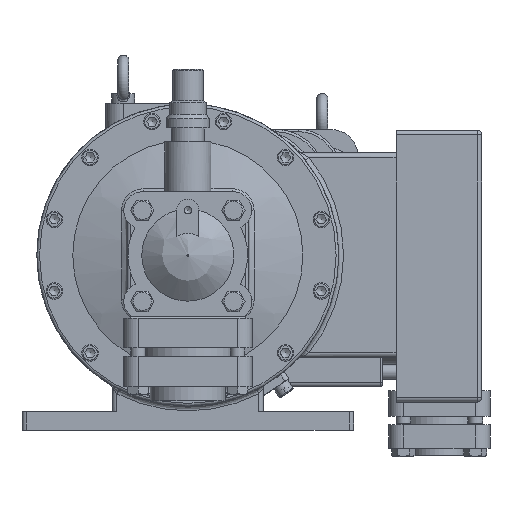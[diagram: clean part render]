
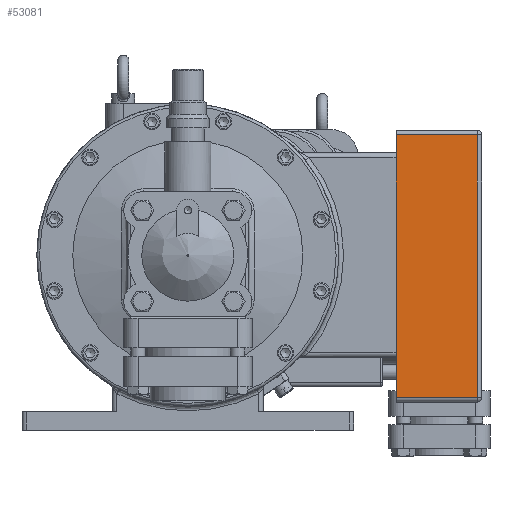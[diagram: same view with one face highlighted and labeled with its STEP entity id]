
A CAD part, left-side view. The second image highlights one B-rep face of the part: STEP entity #53081.
In plain terms, the highlighted planar face has unit normal (-1, 0, 0).
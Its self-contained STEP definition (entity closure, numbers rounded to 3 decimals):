
#52710=CARTESIAN_POINT('',(-179.25,-142.5,41.5));
#52711=VERTEX_POINT('',#52710);
#52727=CARTESIAN_POINT('',(-179.25,142.5,41.5));
#52728=VERTEX_POINT('',#52727);
#52736=CARTESIAN_POINT('',(-179.25,142.5,41.5));
#52737=DIRECTION('',(0.0,-1.0,0.0));
#52738=VECTOR('',#52737,285.0);
#52739=LINE('',#52736,#52738);
#52740=EDGE_CURVE('',#52728,#52711,#52739,.T.);
#52905=CARTESIAN_POINT('',(-179.25,142.5,-46.5));
#52906=VERTEX_POINT('',#52905);
#52914=CARTESIAN_POINT('',(-179.25,142.5,-46.5));
#52915=DIRECTION('',(0.0,0.0,1.0));
#52916=VECTOR('',#52915,88.0);
#52917=LINE('',#52914,#52916);
#52918=EDGE_CURVE('',#52906,#52728,#52917,.T.);
#53039=CARTESIAN_POINT('',(-179.25,-142.5,-46.5));
#53040=VERTEX_POINT('',#53039);
#53041=CARTESIAN_POINT('',(-179.25,-142.5,41.5));
#53042=DIRECTION('',(0.0,0.0,-1.0));
#53043=VECTOR('',#53042,88.0);
#53044=LINE('',#53041,#53043);
#53045=EDGE_CURVE('',#52711,#53040,#53044,.T.);
#53065=CARTESIAN_POINT('',(-179.25,-147.5,-46.5));
#53066=DIRECTION('',(-1.0,0.0,0.0));
#53067=DIRECTION('',(0.0,0.0,1.0));
#53068=AXIS2_PLACEMENT_3D('',#53065,#53066,#53067);
#53069=PLANE('',#53068);
#53070=ORIENTED_EDGE('',*,*,#52740,.F.);
#53071=ORIENTED_EDGE('',*,*,#52918,.F.);
#53072=CARTESIAN_POINT('',(-179.25,142.5,-46.5));
#53073=DIRECTION('',(0.0,-1.0,0.0));
#53074=VECTOR('',#53073,285.0);
#53075=LINE('',#53072,#53074);
#53076=EDGE_CURVE('',#52906,#53040,#53075,.T.);
#53077=ORIENTED_EDGE('',*,*,#53076,.T.);
#53078=ORIENTED_EDGE('',*,*,#53045,.F.);
#53079=EDGE_LOOP('',(#53070,#53071,#53077,#53078));
#53080=FACE_OUTER_BOUND('',#53079,.T.);
#53081=ADVANCED_FACE('',(#53080),#53069,.T.);
